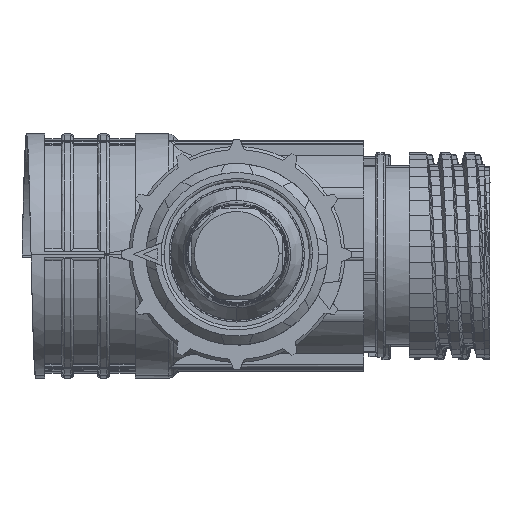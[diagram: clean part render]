
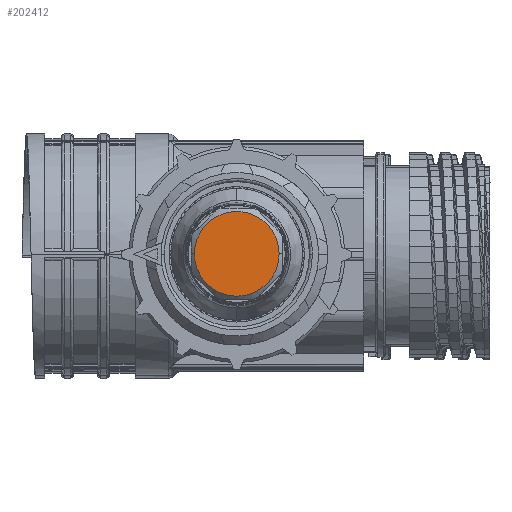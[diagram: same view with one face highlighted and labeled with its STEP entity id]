
A CAD part, top view. The second image highlights one B-rep face of the part: STEP entity #202412.
In plain terms, the highlighted planar face has unit normal (0, 0, 1).
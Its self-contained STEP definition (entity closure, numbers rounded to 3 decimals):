
#3196 = DIRECTION ( 'NONE',  ( -1., 0., 0. ) ) ;
#13564 = EDGE_CURVE ( 'NONE', #236603, #96624, #68817, .T. ) ;
#30517 = DIRECTION ( 'NONE',  ( -1., 0., 0. ) ) ;
#42166 = CARTESIAN_POINT ( 'NONE',  ( -7., 0., 0. ) ) ;
#58890 = ORIENTED_EDGE ( 'NONE', *, *, #13564, .F. ) ;
#67109 = CIRCLE ( 'NONE', #129129, 7. ) ;
#68817 = CIRCLE ( 'NONE', #234674, 7. ) ;
#69279 = DIRECTION ( 'NONE',  ( 0., 0., 1. ) ) ;
#92512 = EDGE_CURVE ( 'NONE', #96624, #236603, #67109, .T. ) ;
#96624 = VERTEX_POINT ( 'NONE', #42166 ) ;
#100778 = CARTESIAN_POINT ( 'NONE',  ( 0., 0., 0. ) ) ;
#109828 = CARTESIAN_POINT ( 'NONE',  ( 0., 0., 0. ) ) ;
#129129 = AXIS2_PLACEMENT_3D ( 'NONE', #109828, #207292, #30517 ) ;
#132789 = FACE_OUTER_BOUND ( 'NONE', #212019, .T. ) ;
#162942 = CARTESIAN_POINT ( 'NONE',  ( 7., 0., 0. ) ) ;
#179863 = DIRECTION ( 'NONE',  ( 0., 0., -1. ) ) ;
#188611 = ORIENTED_EDGE ( 'NONE', *, *, #92512, .F. ) ;
#193736 = PLANE ( 'NONE',  #224281 ) ;
#202412 = ADVANCED_FACE ( 'NONE', ( #132789 ), #193736, .T. ) ;
#207292 = DIRECTION ( 'NONE',  ( 0., 0., -1. ) ) ;
#212019 = EDGE_LOOP ( 'NONE', ( #188611, #58890 ) ) ;
#224281 = AXIS2_PLACEMENT_3D ( 'NONE', #247122, #69279, #227666 ) ;
#227666 = DIRECTION ( 'NONE',  ( 1., 0., 0. ) ) ;
#234674 = AXIS2_PLACEMENT_3D ( 'NONE', #100778, #179863, #3196 ) ;
#236603 = VERTEX_POINT ( 'NONE', #162942 ) ;
#247122 = CARTESIAN_POINT ( 'NONE',  ( -7., 0., 0. ) ) ;
